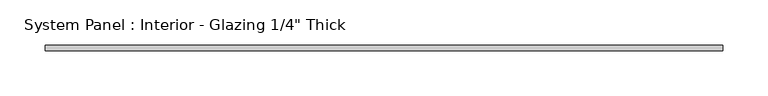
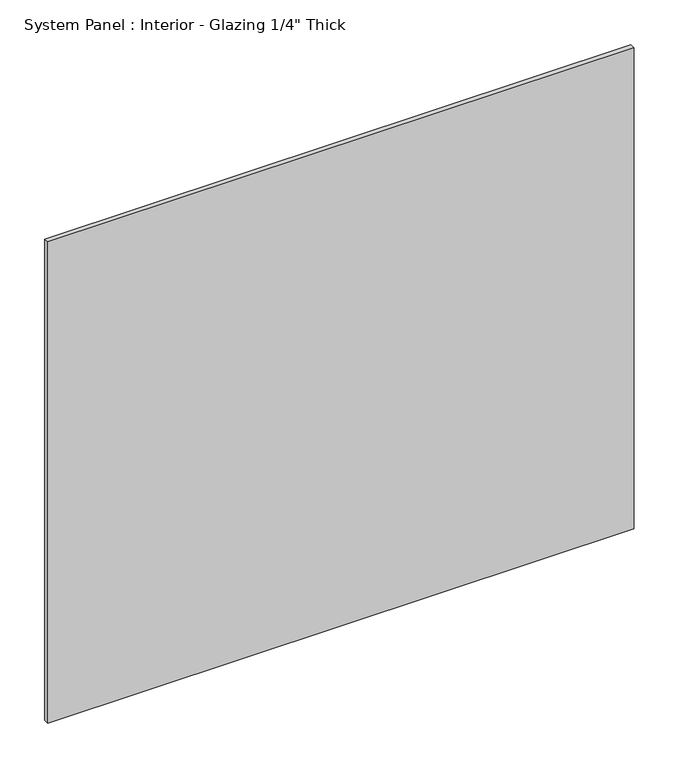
"""IFC4 building model written with IfcOpenShell, lengths in millimetres: plate geometry."""

from ifc_helpers import new_model, si_unit, origin, origin_with_axes, place, context, project, spatial, polyline, outline, extrude, source, transform, mapped, element, save


def plate_13b08ee7(model_context):
    return source(origin(), model_context, "Body", "SweptSolid", [
        extrude(outline(polyline([(376.2375, -3.175), (-376.2375, -3.175), (-376.2375, 3.175), (376.2375, 3.175), (376.2375, -3.175)])), origin_with_axes(), (0.0, 0.0, 1.0), 652.6697437),
    ])


if __name__ == "__main__":
    model = new_model("IFC4")
    model_context = context("Model", 3, world=origin())
    ifc_project = project(units=[si_unit("LENGTHUNIT", "METRE", prefix="MILLI")], contexts=[model_context])
    site = spatial("IfcSite", under=ifc_project)
    building = spatial("IfcBuilding", under=site)
    placement = place(None, origin())
    plate_shape = plate_13b08ee7(model_context)
    element("IfcPlate", 1, ObjectType="System Panel : Interior - Glazing 1/4\" Thick", at=placement, inside=building, context=model_context, shape_type="MappedRepresentation", body=[
        mapped(plate_shape, transform((0.0, 0.0, 0.0), x_axis=(1.0, 0.0, 0.0), y_axis=(0.0, 1.0, 0.0), z_axis=(0.0, 0.0, 1.0))),
    ])
    save(model, "model.ifc")
